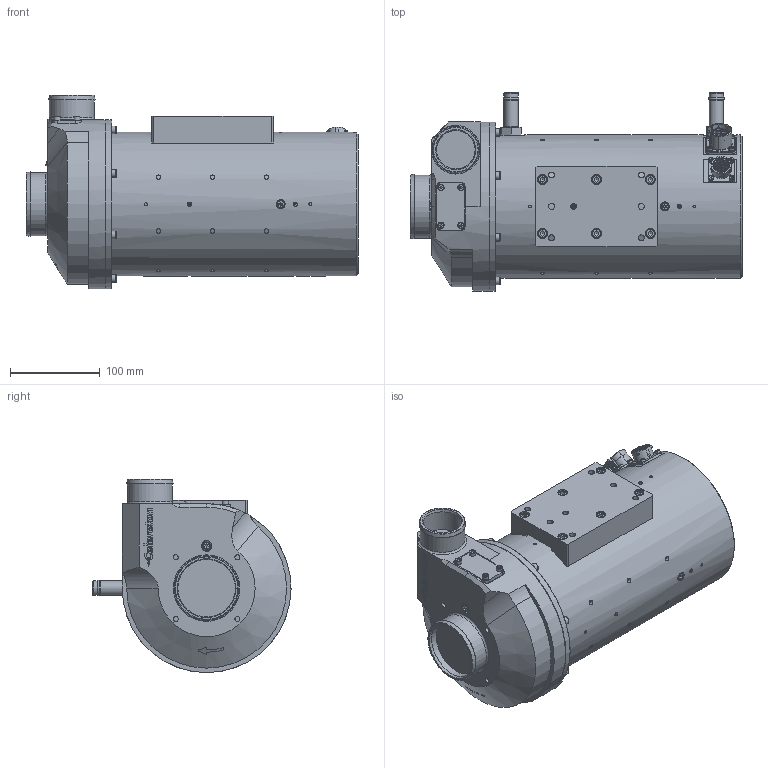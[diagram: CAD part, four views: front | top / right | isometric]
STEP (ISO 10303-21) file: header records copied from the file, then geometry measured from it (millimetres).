
FILE_DESCRIPTION(/* description */ ('Compressor C150'),/* implementation_level */ '2;1');
FILE_NAME(/* name */ /* time_stamp */ '2021-09-23T16:02:56+02:00',/* author */ ('CELEROTON\phweb'),/* organization */ (''),/* preprocessor_version */ 'ST-DEVELOPER v18.1',/* originating_system */ 'Autodesk Inventor 2021',/* authorisation */ '');
FILE_SCHEMA (('AUTOMOTIVE_DESIGN { 1 0 10303 214 3 1 1 }'));
Products named in the file (1): 018907
Bounding box: 369.5 x 220.49 x 215 mm (x, y, z)
Volume: 7707061.2 mm3; surface area: 307950.5 mm2
Topology: 1 solids, 13 shells, 1965 faces, 5219 edges, 3454 vertices
Faces by surface type: plane 1117, cylinder 523, bspline 119, cone 114, torus 92
Full cylindrical faces by diameter (mm): 2.5 x1, 2.68 x12, 3.242 x8, 3.35 x24, 4.134 x2, 4.459 x8, 4.55 x3, 4.917 x19, 5 x8, 5.15 x3, 5.2 x8, 5.5 x12, 6 x3, 6.5 x1, 6.647 x6, 6.88 x1, 7 x10, 7.5 x6, 8 x3, 8.5 x13, 9 x1, 10 x10, 10.084 x2, 10.26 x2, 10.376 x1, 10.719 x2, 11 x6, 11.5 x1, 14.097 x2, 14.1 x1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
Entity records: 79196 total; most frequent: CARTESIAN_POINT 27241, ORIENTED_EDGE 10382, DIRECTION 8946, EDGE_CURVE 5191, VERTEX_POINT 3454, AXIS2_PLACEMENT_3D 2993, LINE 2960, VECTOR 2960
